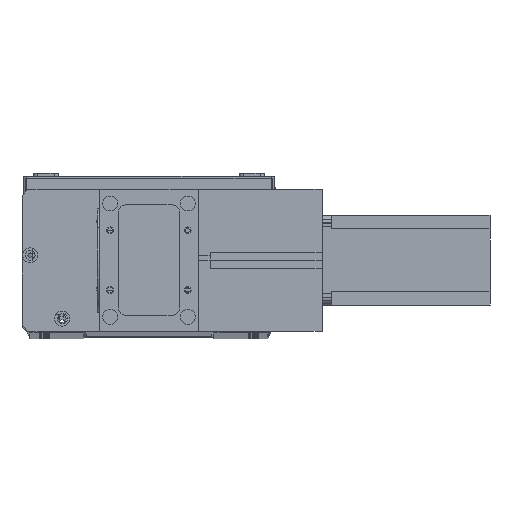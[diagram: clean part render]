
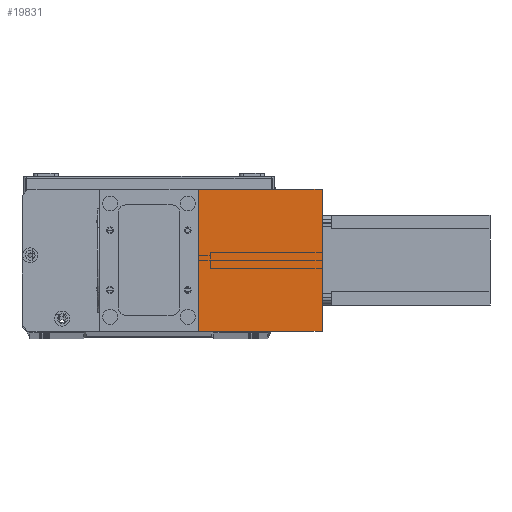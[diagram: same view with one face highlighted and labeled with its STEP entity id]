
A CAD part, top view. The second image highlights one B-rep face of the part: STEP entity #19831.
In plain terms, the highlighted planar face has unit normal (0, 0, 1) as drawn and (1, 0, 0) by its records, which use the part's own axes.
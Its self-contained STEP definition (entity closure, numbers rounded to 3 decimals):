
#101 = VERTEX_POINT ( 'NONE', #4068 ) ;
#2083 = VECTOR ( 'NONE', #16339, 1000. ) ;
#2172 = CARTESIAN_POINT ( 'NONE',  ( 82., 0., 83. ) ) ;
#4068 = CARTESIAN_POINT ( 'NONE',  ( 82., 0., 83. ) ) ;
#4424 = CARTESIAN_POINT ( 'NONE',  ( 82., 95., 0. ) ) ;
#5554 = LINE ( 'NONE', #10361, #28815 ) ;
#6698 = DIRECTION ( 'NONE',  ( 0., 0., -1. ) ) ;
#7186 = PLANE ( 'NONE',  #9759 ) ;
#7219 = CARTESIAN_POINT ( 'NONE',  ( 82., 0., 0. ) ) ;
#7600 = VECTOR ( 'NONE', #6698, 1000. ) ;
#8338 = LINE ( 'NONE', #9054, #7600 ) ;
#9054 = CARTESIAN_POINT ( 'NONE',  ( 82., 95., 83. ) ) ;
#9558 = DIRECTION ( 'NONE',  ( 0., 0., 1. ) ) ;
#9759 = AXIS2_PLACEMENT_3D ( 'NONE', #21087, #23488, #9558 ) ;
#10361 = CARTESIAN_POINT ( 'NONE',  ( 82., 0., 83. ) ) ;
#10460 = DIRECTION ( 'NONE',  ( 0., 1., 0. ) ) ;
#13073 = VERTEX_POINT ( 'NONE', #7219 ) ;
#14082 = EDGE_LOOP ( 'NONE', ( #15314, #14207, #21749, #25614 ) ) ;
#14207 = ORIENTED_EDGE ( 'NONE', *, *, #17071, .F. ) ;
#15314 = ORIENTED_EDGE ( 'NONE', *, *, #16726, .T. ) ;
#16339 = DIRECTION ( 'NONE',  ( 0., 0., -1. ) ) ;
#16726 = EDGE_CURVE ( 'NONE', #13073, #24453, #29378, .T. ) ;
#17071 = EDGE_CURVE ( 'NONE', #17516, #24453, #8338, .T. ) ;
#17387 = EDGE_CURVE ( 'NONE', #101, #17516, #5554, .T. ) ;
#17516 = VERTEX_POINT ( 'NONE', #20093 ) ;
#19831 = ADVANCED_FACE ( 'NONE', ( #21150 ), #7186, .F. ) ;
#20093 = CARTESIAN_POINT ( 'NONE',  ( 82., 95., 83. ) ) ;
#20178 = LINE ( 'NONE', #2172, #2083 ) ;
#21087 = CARTESIAN_POINT ( 'NONE',  ( 82., 0., 83. ) ) ;
#21150 = FACE_OUTER_BOUND ( 'NONE', #14082, .T. ) ;
#21749 = ORIENTED_EDGE ( 'NONE', *, *, #17387, .F. ) ;
#23294 = VECTOR ( 'NONE', #27698, 1000. ) ;
#23488 = DIRECTION ( 'NONE',  ( -1., 0., 0. ) ) ;
#24453 = VERTEX_POINT ( 'NONE', #4424 ) ;
#24486 = EDGE_CURVE ( 'NONE', #101, #13073, #20178, .T. ) ;
#25614 = ORIENTED_EDGE ( 'NONE', *, *, #24486, .T. ) ;
#27590 = CARTESIAN_POINT ( 'NONE',  ( 82., 0., 0. ) ) ;
#27698 = DIRECTION ( 'NONE',  ( 0., 1., 0. ) ) ;
#28815 = VECTOR ( 'NONE', #10460, 1000. ) ;
#29378 = LINE ( 'NONE', #27590, #23294 ) ;
